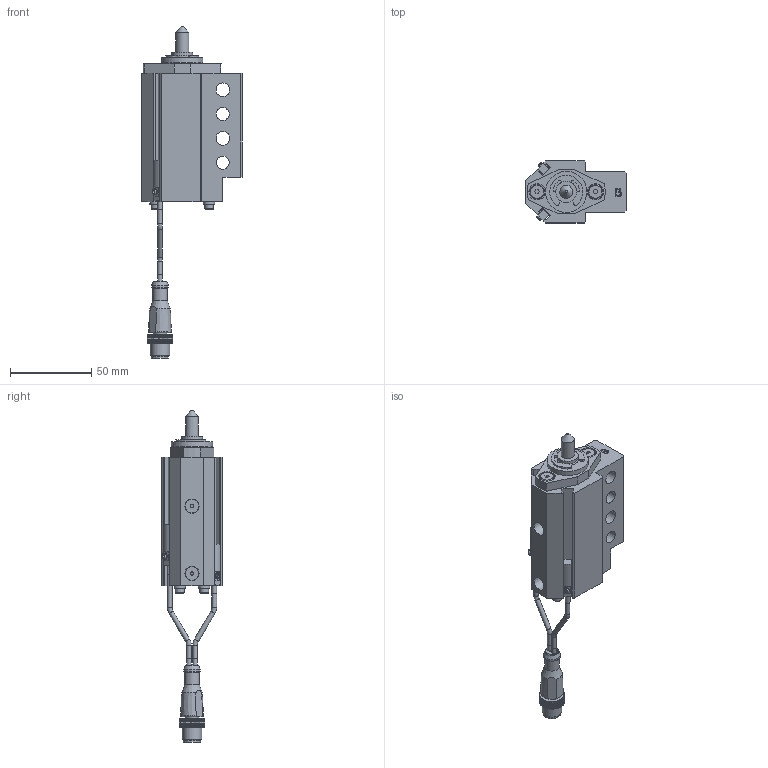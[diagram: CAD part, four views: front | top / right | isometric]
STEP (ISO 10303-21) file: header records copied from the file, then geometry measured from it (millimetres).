
FILE_DESCRIPTION(/* description */ ('NAAMS FLOATING MICRO PIN'),/* implementation_level */ '2;1');
FILE_NAME(/* name */ 'C:\Vault Workspace\CAD\Welker\Shot Pin\NMP\NMP080012BANL3.stp',/* time_stamp */ '2021-01-27T08:34:13-05:00',/* author */ ('WELKER'),/* organization */ (''),/* preprocessor_version */ 'ST-DEVELOPER v18.1',/* originating_system */ 'Autodesk Inventor 2020',/* authorisation */ '');
FILE_SCHEMA (('AUTOMOTIVE_DESIGN { 1 0 10303 214 3 1 1 }'));
Length unit declared in the file: millimetre
Products named in the file (16): NMPL01; NMP L3 SWITCH; L3 Connector; L3 Sensor 1; L3 Sensor 2; L3 Sensor cable; L3 Sensor cable 2; M3X0.5-8 SHCS; NL3; NMPE06; NMPE03; NMPE05-DIA-LENGTH; 985432A218; NMPE01B-PORT; RMPE02; M5X5 SHOULDER
Assembly tree (22 placements, depth 3):
  NMPL01
    NMP L3 SWITCH
      L3 Connector
      L3 Sensor 1
      L3 Sensor 2
      L3 Sensor cable
      L3 Sensor cable 2
    M3X0.5-8 SHCS  x4
    NL3  x4
    NMPE06
    NMPE03
    NMPE05-DIA-LENGTH
    985432A218
    NMPE01B-PORT
    RMPE02
    M5X5 SHOULDER  x2
Bounding box: 62 x 38.1 x 204.73 mm (x, y, z)
Volume: 110495.7 mm3; surface area: 45136.4 mm2
Topology: 21 solids, 21 shells, 758 faces, 2052 edges, 1372 vertices
Faces by surface type: plane 553, cylinder 144, cone 31, bspline 16, torus 11, sphere 3
Full cylindrical faces by diameter (mm): 2 x2, 2.459 x4, 2.9 x10, 3 x5, 3.242 x2, 3.4 x4, 4 x2, 5 x6, 5.5 x4, 7 x4, 8 x3, 8.3 x2, 8.376 x2, 9 x3, 10 x3, 10.4 x1, 10.5 x1, 12 x1, 13 x3, 16 x2, 19.05 x3, 21 x1, 22.5 x1, 23.672 x1, 24 x1, 25.4 x1, 25.5 x1, 26.5 x1, 28.677 x1, 29.21 x1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
Entity records: 23201 total; most frequent: CARTESIAN_POINT 4367, ORIENTED_EDGE 3802, DIRECTION 3727, EDGE_CURVE 1901, LINE 1393, VECTOR 1393, VERTEX_POINT 1277, AXIS2_PLACEMENT_3D 1167
